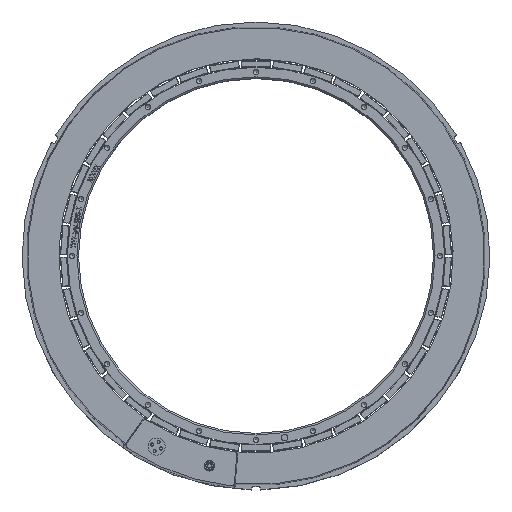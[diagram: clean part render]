
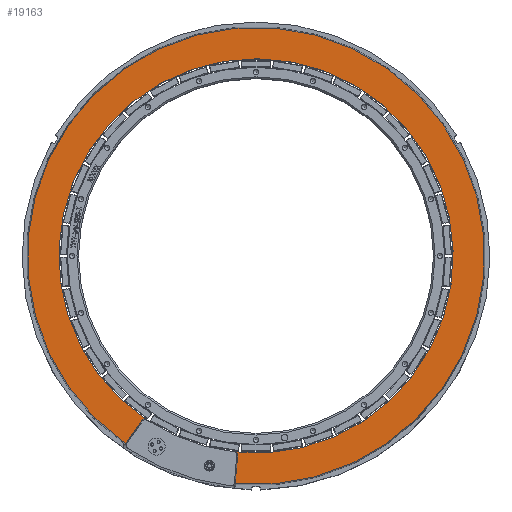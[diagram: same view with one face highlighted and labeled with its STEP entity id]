
A CAD part, top view. The second image highlights one B-rep face of the part: STEP entity #19163.
In plain terms, the highlighted planar face has unit normal (0, 0, 1).
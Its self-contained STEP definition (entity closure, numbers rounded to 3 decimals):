
#505=B_SPLINE_CURVE_WITH_KNOTS('',3,(#37272,#37273,#37274,#37275,#37276),
 .UNSPECIFIED.,.F.,.F.,(4,1,4),(0.,0.002,
0.003),.UNSPECIFIED.);
#506=B_SPLINE_CURVE_WITH_KNOTS('',3,(#37277,#37278,#37279,#37280,#37281),
 .UNSPECIFIED.,.F.,.F.,(4,1,4),(0.,0.002,
0.003),.UNSPECIFIED.);
#1289=PLANE('',#24432);
#2383=CIRCLE('',#24428,122.2);
#2385=CIRCLE('',#24433,141.691);
#7603=ORIENTED_EDGE('',*,*,#10253,.F.);
#7604=ORIENTED_EDGE('',*,*,#10268,.F.);
#7605=ORIENTED_EDGE('',*,*,#10269,.F.);
#7606=ORIENTED_EDGE('',*,*,#10270,.T.);
#7607=ORIENTED_EDGE('',*,*,#10264,.T.);
#7608=ORIENTED_EDGE('',*,*,#10271,.T.);
#10253=EDGE_CURVE('',#11802,#11803,#12965,.F.);
#10264=EDGE_CURVE('',#11813,#11814,#2383,.T.);
#10268=EDGE_CURVE('',#11817,#11802,#2385,.T.);
#10269=EDGE_CURVE('',#11818,#11817,#12967,.F.);
#10270=EDGE_CURVE('',#11818,#11813,#505,.T.);
#10271=EDGE_CURVE('',#11814,#11803,#506,.T.);
#11802=VERTEX_POINT('',#37227);
#11803=VERTEX_POINT('',#37229);
#11813=VERTEX_POINT('',#37260);
#11814=VERTEX_POINT('',#37261);
#11817=VERTEX_POINT('',#37269);
#11818=VERTEX_POINT('',#37271);
#12965=LINE('',#37228,#14111);
#12967=LINE('',#37270,#14113);
#14111=VECTOR('',#30457,1000.);
#14113=VECTOR('',#30501,1000.);
#15649=EDGE_LOOP('',(#7603,#7604,#7605,#7606,#7607,#7608));
#17236=FACE_BOUND('',#15649,.T.);
#19163=ADVANCED_FACE('',(#17236),#1289,.F.);
#24428=AXIS2_PLACEMENT_3D('',#37259,#30489,#30490);
#24432=AXIS2_PLACEMENT_3D('',#37267,#30497,#30498);
#24433=AXIS2_PLACEMENT_3D('',#37268,#30499,#30500);
#30457=DIRECTION('',(-0.087,-0.996,0.));
#30489=DIRECTION('',(0.,0.,-1.));
#30490=DIRECTION('',(1.,0.,0.));
#30497=DIRECTION('',(0.,0.,-1.));
#30498=DIRECTION('',(-1.,0.,0.));
#30499=DIRECTION('',(0.,0.,-1.));
#30500=DIRECTION('',(-1.,0.,0.));
#30501=DIRECTION('',(0.574,0.819,0.));
#37227=CARTESIAN_POINT('',(-12.906,-141.102,15.5));
#37228=CARTESIAN_POINT('',(-0.557,0.049,15.5));
#37229=CARTESIAN_POINT('',(-11.379,-123.652,15.5));
#37259=CARTESIAN_POINT('',(0.,0.,15.5));
#37260=CARTESIAN_POINT('',(-68.013,-101.524,15.5));
#37261=CARTESIAN_POINT('',(-13.157,-121.49,15.5));
#37267=CARTESIAN_POINT('',(0.,0.,15.5));
#37268=CARTESIAN_POINT('',(0.,0.,15.5));
#37269=CARTESIAN_POINT('',(-80.812,-116.386,15.5));
#37270=CARTESIAN_POINT('',(0.458,-0.32,15.5));
#37271=CARTESIAN_POINT('',(-70.765,-102.038,15.5));
#37272=CARTESIAN_POINT('',(-70.765,-102.038,15.5));
#37273=CARTESIAN_POINT('',(-70.466,-101.61,15.5));
#37274=CARTESIAN_POINT('',(-69.533,-101.016,15.5));
#37275=CARTESIAN_POINT('',(-68.446,-101.234,15.5));
#37276=CARTESIAN_POINT('',(-68.013,-101.524,15.5));
#37277=CARTESIAN_POINT('',(-13.157,-121.49,15.5));
#37278=CARTESIAN_POINT('',(-12.639,-121.546,15.5));
#37279=CARTESIAN_POINT('',(-11.668,-122.076,15.5));
#37280=CARTESIAN_POINT('',(-11.334,-123.133,15.5));
#37281=CARTESIAN_POINT('',(-11.379,-123.652,15.5));
